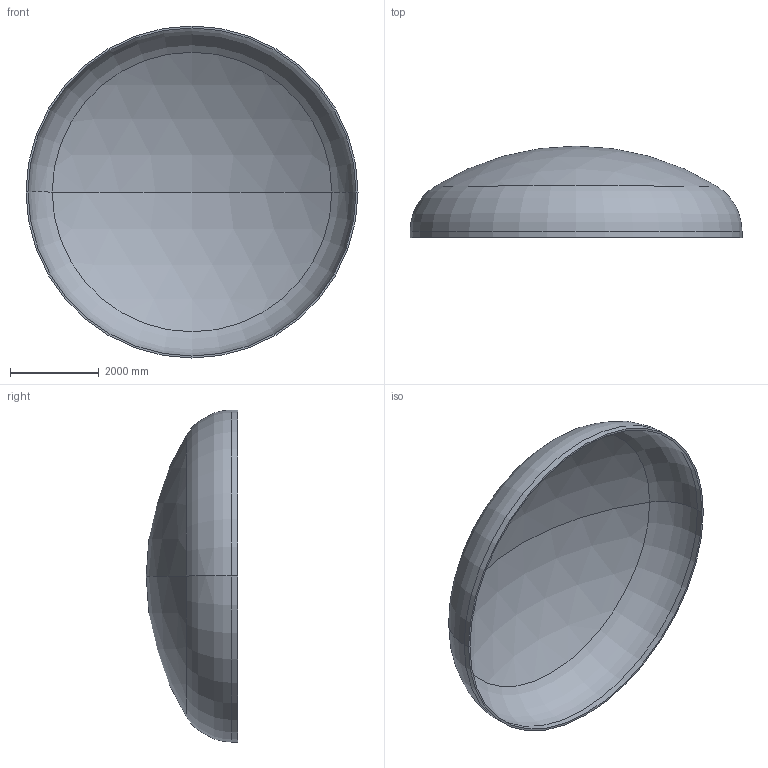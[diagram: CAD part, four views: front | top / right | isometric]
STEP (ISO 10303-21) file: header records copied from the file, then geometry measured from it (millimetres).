
FILE_DESCRIPTION (( 'STEP AP203' ), '1' );
FILE_NAME ('DIN 28013 Korbbogenform_-_Boden DIN 28013 - 7500 x 140 - I - s=45.step', '2016-07-04T10:54:12', ( '' ), ( '' ), 'SwSTEP 2.0', 'SolidWorks 2013', '' );
FILE_SCHEMA (( 'CONFIG_CONTROL_DESIGN' ));
Length unit declared in the file: millimetre
Products named in the file (1): DIN 28013 Korbbogenform_-_Boden DIN 28013 - 7500 x 140 - I - s=45
Bounding box: 7500 x 2065.35 x 7500 mm (x, y, z)
Volume: 2879261344.8 mm3; surface area: 129025287.9 mm2
Topology: 1 solids, 1 shells, 13 faces, 24 edges, 14 vertices
Faces by surface type: torus 4, cylinder 4, sphere 4, plane 1
Entity records: 407 total; most frequent: DIRECTION 72, CARTESIAN_POINT 52, ORIENTED_EDGE 48, AXIS2_PLACEMENT_3D 34, EDGE_CURVE 24, CIRCLE 20, VERTEX_POINT 14, EDGE_LOOP 14
